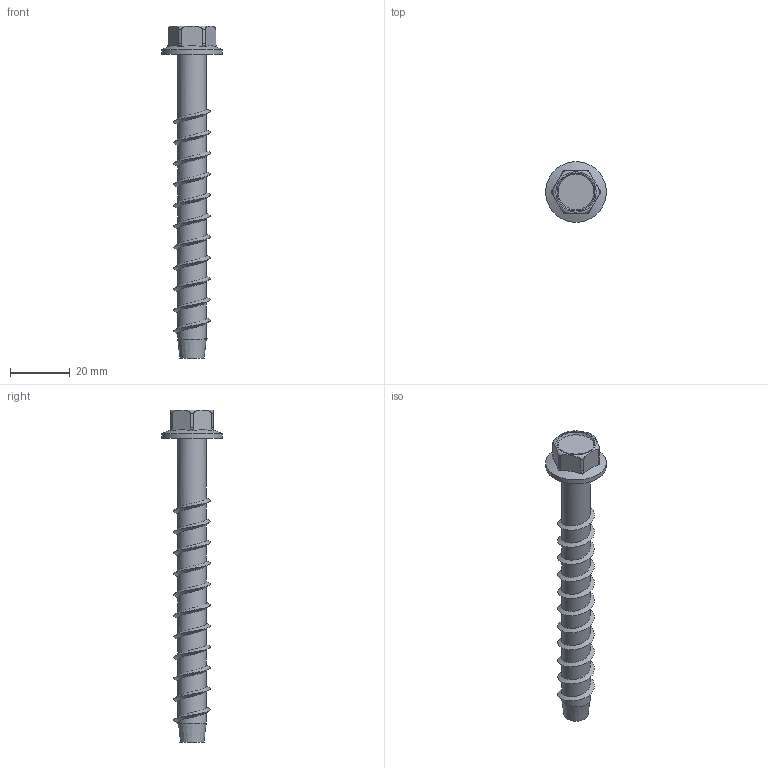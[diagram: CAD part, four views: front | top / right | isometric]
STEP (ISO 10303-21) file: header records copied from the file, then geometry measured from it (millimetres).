
FILE_DESCRIPTION(/* description */ (''),/* implementation_level */ '2;1');
FILE_NAME(/* name */ 'C:\001_Work\Designs\SAST\SAST-0.375 x 4.000.stp',/* time_stamp */ '2015-10-10T17:31:35-04:00',/* author */ ('rramoutar'),/* organization */ ('Mason Industries Inc.'),/* preprocessor_version */ 'ST-DEVELOPER v15.6',/* originating_system */ 'Autodesk Inventor 2015',/* authorisation */ '');
FILE_SCHEMA (('AUTOMOTIVE_DESIGN { 1 0 10303 214 3 1 1 }'));
Length unit declared in the file: inch
Products named in the file (1): SAST-0.375 x 4.000
Bounding box: 20.32 x 20.32 x 111.12 mm (x, y, z)
Volume: 9462.9 mm3; surface area: 4804.6 mm2
Topology: 1 solids, 1 shells, 47 faces, 124 edges, 81 vertices
Faces by surface type: cylinder 19, plane 10, bspline 8, torus 7, cone 3
Full cylindrical faces by diameter (mm): 9.525 x11, 20.32 x1
Entity records: 3087 total; most frequent: CARTESIAN_POINT 2313, ORIENTED_EDGE 166, DIRECTION 130, EDGE_CURVE 83, VERTEX_POINT 57, AXIS2_PLACEMENT_3D 53, EDGE_LOOP 44, FACE_OUTER_BOUND 36
